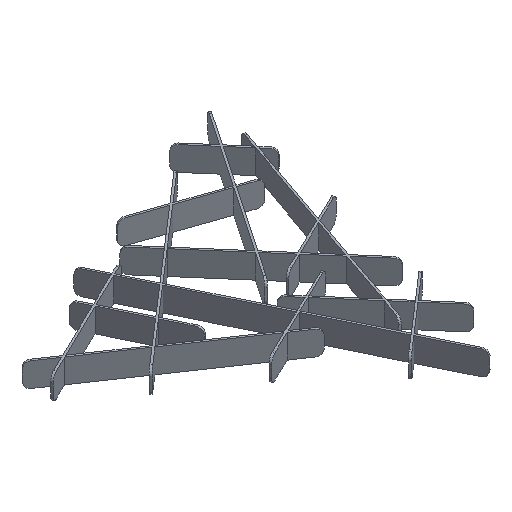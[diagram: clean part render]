
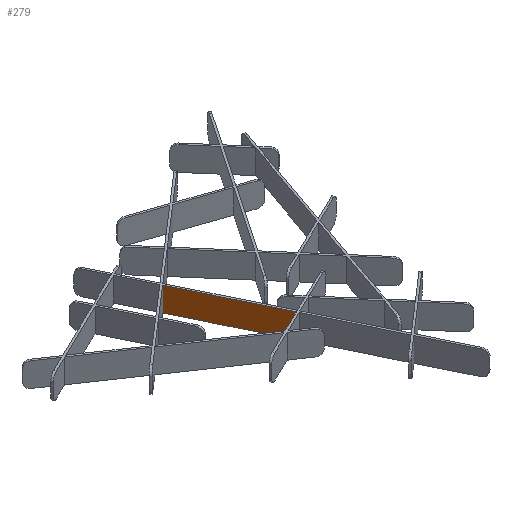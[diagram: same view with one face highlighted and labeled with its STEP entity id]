
A CAD part, isometric view. The second image highlights one B-rep face of the part: STEP entity #279.
In plain terms, the highlighted planar face has unit normal (-0.9, -0.436, 0).
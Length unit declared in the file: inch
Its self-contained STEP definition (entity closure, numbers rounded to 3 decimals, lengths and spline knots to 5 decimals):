
#279=ADVANCED_FACE('',(#477),#4472,.T.);
#477=FACE_OUTER_BOUND('',#675,.T.);
#675=EDGE_LOOP('',(#1174,#1175,#1176,#1177));
#1174=ORIENTED_EDGE('',*,*,#2129,.F.);
#1175=ORIENTED_EDGE('',*,*,#2110,.T.);
#1176=ORIENTED_EDGE('',*,*,#2128,.T.);
#1177=ORIENTED_EDGE('',*,*,#2142,.F.);
#2110=EDGE_CURVE('',#3924,#3925,#3518,.T.);
#2128=EDGE_CURVE('',#3925,#3941,#3536,.T.);
#2129=EDGE_CURVE('',#3924,#3940,#3537,.T.);
#2142=EDGE_CURVE('',#3940,#3941,#3550,.T.);
#3518=B_SPLINE_CURVE_WITH_KNOTS('',1,(#6373,#6374),.UNSPECIFIED.,.F.,.F.,
(2,2),(-6.,0.),.UNSPECIFIED.);
#3536=B_SPLINE_CURVE_WITH_KNOTS('',1,(#6409,#6410),.UNSPECIFIED.,.F.,.F.,
(2,2),(42.97078,60.62565),.UNSPECIFIED.);
#3537=B_SPLINE_CURVE_WITH_KNOTS('',1,(#6411,#6412),.UNSPECIFIED.,.F.,.F.,
(2,2),(42.97078,60.62565),.UNSPECIFIED.);
#3550=B_SPLINE_CURVE_WITH_KNOTS('',1,(#6437,#6438),.UNSPECIFIED.,.F.,.F.,
(2,2),(-6.,0.),.UNSPECIFIED.);
#3924=VERTEX_POINT('',#5821);
#3925=VERTEX_POINT('',#5822);
#3940=VERTEX_POINT('',#5837);
#3941=VERTEX_POINT('',#5838);
#4472=PLANE('',#4663);
#4663=AXIS2_PLACEMENT_3D('',#5653,#5046,$);
#5046=DIRECTION('',(-0.9,-0.436,0.));
#5653=CARTESIAN_POINT('',(255.78219,-340.72298,691.71112));
#5821=CARTESIAN_POINT('',(263.00058,-355.60378,697.71112));
#5822=CARTESIAN_POINT('',(263.00058,-355.60378,691.71112));
#5837=CARTESIAN_POINT('',(273.88916,-378.05071,697.71112));
#5838=CARTESIAN_POINT('',(273.88916,-378.05071,691.71112));
#6373=CARTESIAN_POINT('',(263.00058,-355.60378,697.71112));
#6374=CARTESIAN_POINT('',(263.00058,-355.60378,691.71112));
#6409=CARTESIAN_POINT('',(263.00058,-355.60378,691.71112));
#6410=CARTESIAN_POINT('',(273.88916,-378.05071,691.71112));
#6411=CARTESIAN_POINT('',(263.00058,-355.60378,697.71112));
#6412=CARTESIAN_POINT('',(273.88916,-378.05071,697.71112));
#6437=CARTESIAN_POINT('',(273.88916,-378.05071,697.71112));
#6438=CARTESIAN_POINT('',(273.88916,-378.05071,691.71112));
